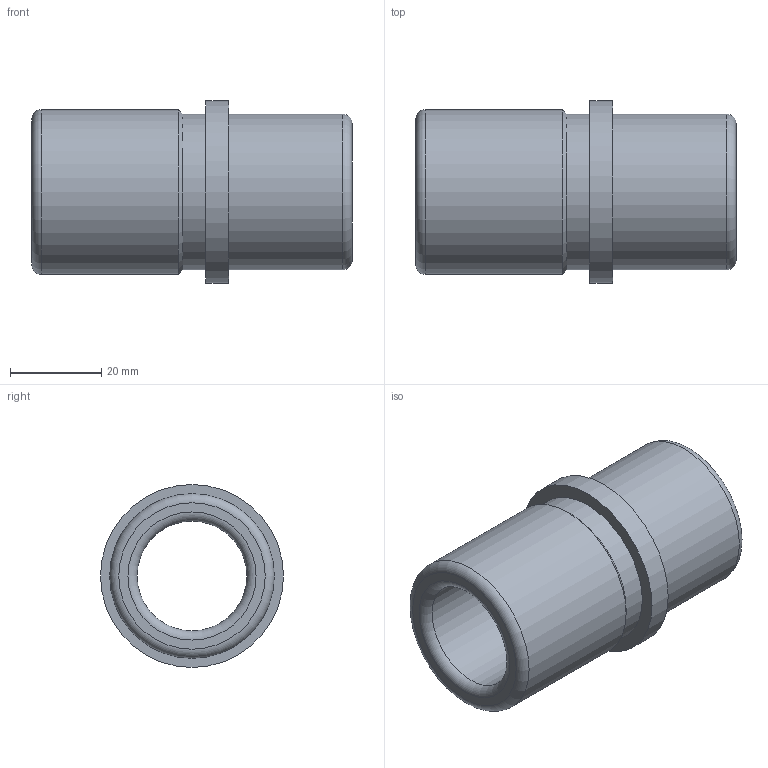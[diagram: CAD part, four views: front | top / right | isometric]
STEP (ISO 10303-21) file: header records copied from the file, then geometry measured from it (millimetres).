
FILE_DESCRIPTION( ( 'STEP AP214' ), '1' );
FILE_NAME( 'p:/temp/worker_27/temp/exporttempdir_4504_483_kd3xe/format_0/WZ - 4053 19 x 70 - 24.stp', '2020-12-04T20:02:15', ( 'License CC BY-ND 4.0' ), ( 'CADENAS' ), ' ', 'PARTsolutions', ' ' );
FILE_SCHEMA( ( 'AUTOMOTIVE_DESIGN { 1 0 10303 214 1 1 1 1 }' ) );
Length unit declared in the file: millimetre
Products named in the file (1): _WZ - 4053 19 x 70 - 24
Bounding box: 70 x 40 x 40 mm (x, y, z)
Volume: 36885.6 mm3; surface area: 14499.1 mm2
Topology: 1 solids, 1 shells, 14 faces, 24 edges, 14 vertices
Faces by surface type: cylinder 5, plane 4, torus 4, cone 1
Full cylindrical faces by diameter (mm): 24 x1, 34 x2, 36 x1, 40 x1
Entity records: 416 total; most frequent: DIRECTION 58, CARTESIAN_POINT 43, AXIS2_PLACEMENT_3D 29, EDGE_LOOP 28, ORIENTED_EDGE 28, FACE_OUTER_BOUND 23, STYLED_ITEM 14, PRESENTATION_STYLE_ASSIGNMENT 14
